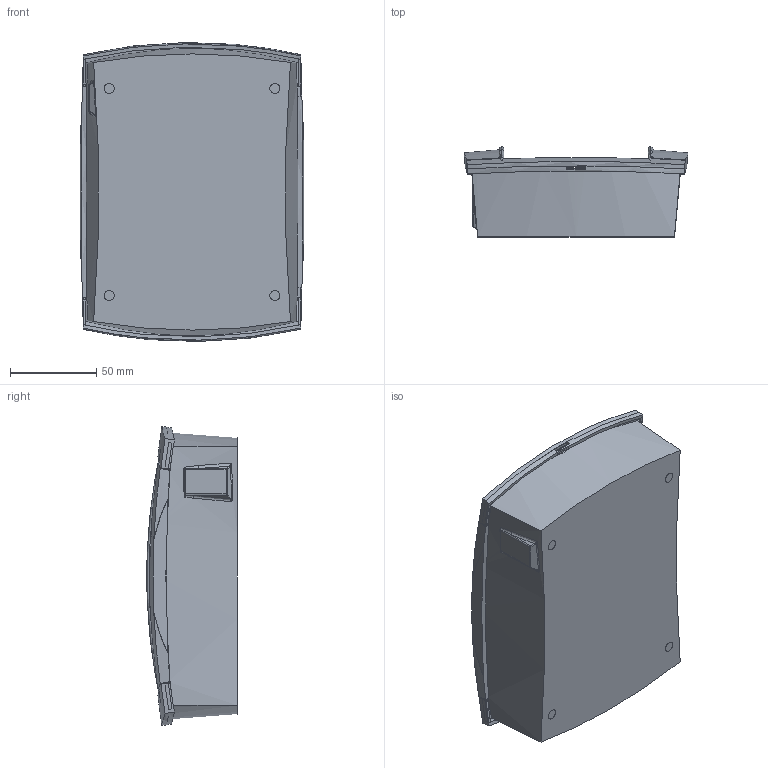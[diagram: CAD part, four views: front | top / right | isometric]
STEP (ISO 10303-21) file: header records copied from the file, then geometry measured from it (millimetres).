
FILE_DESCRIPTION (( 'STEP AP214' ), '1' );
FILE_NAME ('Conjunt PP109.STEP', '2018-03-27T15:35:54', ( 'aaa' ), ( '' ), 'SwSTEP 2.0', 'SolidWorks 2013', '' );
FILE_SCHEMA (( 'AUTOMOTIVE_DESIGN' ));
Length unit declared in the file: millimetre
Products named in the file (6): Cargol 2,9x 6,5 PP109; Cargol 2,9x 9,5 PP109; Lateral PP109; Tapa central PP109; Base PP109; Conjunt PP109
Assembly tree (12 placements, depth 2):
  Conjunt PP109
    Base PP109
    Tapa central PP109
    Lateral PP109  x2
    Cargol 2,9x 9,5 PP109  x4
    Cargol 2,9x 6,5 PP109  x4
Bounding box: 129.61 x 52.5 x 173.16 mm (x, y, z)
Volume: 173922.4 mm3; surface area: 141875.7 mm2
Topology: 12 solids, 12 shells, 1240 faces, 2918 edges, 1733 vertices
Faces by surface type: cone 472, plane 412, cylinder 236, bspline 87, torus 28, sphere 5
Entity records: 24091 total; most frequent: CARTESIAN_POINT 7302, ORIENTED_EDGE 3554, DIRECTION 3301, EDGE_CURVE 1777, AXIS2_PLACEMENT_3D 1230, VERTEX_POINT 1113, VECTOR 841, LINE 841
